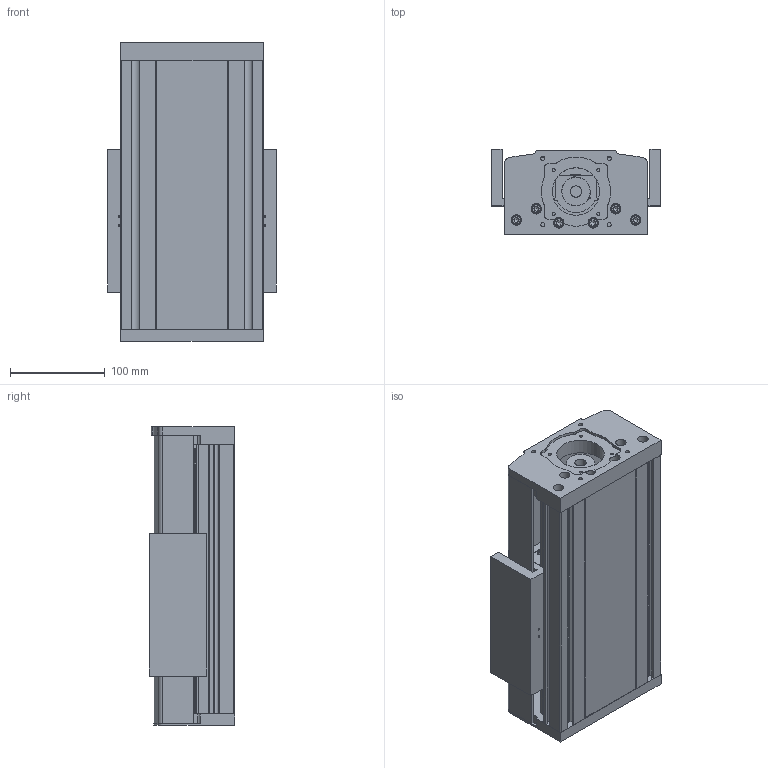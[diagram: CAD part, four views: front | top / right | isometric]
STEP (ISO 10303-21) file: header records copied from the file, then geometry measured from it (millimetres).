
FILE_DESCRIPTION(/* description */ (''),/* implementation_level */ '2;1');
FILE_NAME(/* name */ 'GF150.stp',/* time_stamp */ '2025-11-03T14:16:36+08:00',/* author */ (''),/* organization */ (''),/* preprocessor_version */ 'ST-DEVELOPER v20',/* originating_system */ 'SIEMENS PLM Software NX2312.1700',/* authorisation */ '');
FILE_SCHEMA (('AUTOMOTIVE_DESIGN { 1 0 10303 214 3 1 1 1 }'));
Products named in the file (1): GF150_objects
Bounding box: 178 x 89.7 x 315 mm (x, y, z)
Volume: 2185966.9 mm3; surface area: 703561.7 mm2
Topology: 62 solids, 66 shells, 2144 faces, 5693 edges, 3788 vertices
Faces by surface type: plane 1361, cylinder 528, cone 113, torus 111, sphere 28, bspline 3
Full cylindrical faces by diameter (mm): 1 x8, 1.8 x4, 2 x3, 2.8 x4, 3.3 x20, 4 x43, 4.2 x28, 4.5 x10, 4.8 x12, 5.3 x8, 6 x36, 6.45 x4, 6.6 x4, 6.65 x6, 7 x31, 7.2 x4, 7.5 x8, 7.8 x16, 10 x28, 11 x16, 12 x6, 14 x1, 16 x1, 17.333 x4, 20 x1, 21 x1, 22.667 x4, 25 x1, 27.78 x1, 28 x3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
Entity records: 73799 total; most frequent: CARTESIAN_POINT 22764, DIRECTION 10209, ORIENTED_EDGE 9776, EDGE_CURVE 4888, AXIS2_PLACEMENT_3D 3697, VERTEX_POINT 3561, EDGE_LOOP 2997, LINE 2815
